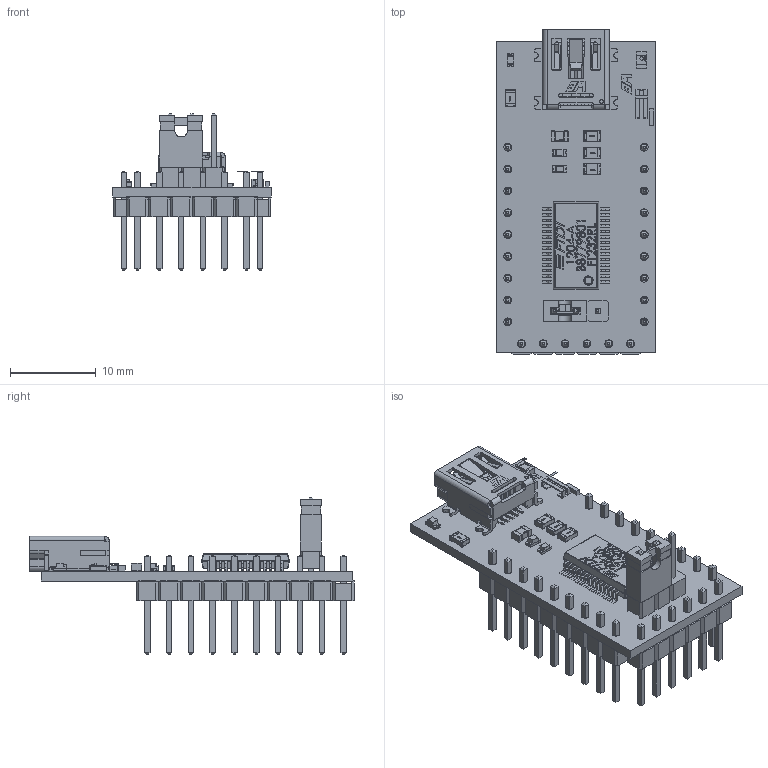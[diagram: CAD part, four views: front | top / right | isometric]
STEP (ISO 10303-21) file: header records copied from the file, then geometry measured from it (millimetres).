
FILE_DESCRIPTION (( 'STEP AP214' ), '1' );
FILE_NAME ('User Library-USB to TTL Serial Converter.STEP', '2021-11-09T10:01:26', ( '' ), ( '' ), 'SwSTEP 2.0', 'SolidWorks 2021', '' );
FILE_SCHEMA (( 'AUTOMOTIVE_DESIGN' ));
Length unit declared in the file: millimetre
Products named in the file (57): BodyArray; C1; Cap_KEMET_C0805C104K8RACTU_eec_3; All; 2; Res_YAGEO_RC0805JR-071KL_eec; D1; BodyArray_3; Pin_1; Wurth_Electronics_65100516121; Free-Models; 5; 3_2; Yageo; PinArray_2; 1_2; Logo; 1; User_Library-Header_Male_3Pin; R3; J1; Body; User_Library-SSOP-28-2; R2; Diode_Broadcom_HSME-C191_eec; pins_2; top; D2; Cap_KEMET_C0805C104K8RACTU_eec_2; 60900213421; Cap_Kemet_T491A106M016AT_eec; Insulator; Open CASCADE STEP translator 6.8 1.1.1; 60900213421_Housing; PinArray; R1; User_Library-Header_Male_6Pin; R4; Cap_KEMET_C0805C104K8RACTU_eec; Diode_Avago_HSMS-C190_eec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
Assembly tree (71 placements, depth 5):
  User Library-USB to TTL Serial Converter
    Board
      Open CASCADE STEP translator 6.8 1.1.1
    R4
      Res_YAGEO_RC0805JR-071KL_eec
        Body
        pad  x2
        top
        Yageo
    D3
      Diode_Avago_HSMS-C190_eec
        1
        2
        3
        All
    U1
      User_Library-SSOP-28-2
    R3
      Res_YAGEO_RC0805JR-071KL_eec
        Body
        pad  x2
        top
        Yageo
    R2
      Res_YAGEO_RC0805JR-071KL_eec
        Body
        pad  x2
        top
        Yageo
    R1
      Res_YAGEO_RC0805JR-071KL_eec
        Body
        pad  x2
        top
        Yageo
    J1
      Conn_Wurth_Electronics_65100516121_eec
        Wurth_Electronics_65100516121
          Shielding
          Insulator
          Pin_1  x5
          pins_2
        Logo
    D2
      Diode_Avago_HSMS-C190_eec
        1
        2
        3
        All
    D1
      Diode_Broadcom_HSME-C191_eec
        1_2
        2_2
        3_2
        5
    C3
      Cap_KEMET_C0805C104K8RACTU_eec
      Cap_KEMET_C0805C104K8RACTU_eec_2
      Cap_KEMET_C0805C104K8RACTU_eec_3
    C2
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Bounding box: 18.4 x 37.8 x 18.23 mm (x, y, z)
Volume: 1489.9 mm3; surface area: 4713.5 mm2
Topology: 186 solids, 186 shells, 3906 faces, 10248 edges, 6520 vertices
Faces by surface type: plane 2562, cylinder 840, bspline 498, cone 6
Entity records: 118709 total; most frequent: CARTESIAN_POINT 25331, ORIENTED_EDGE 13604, DIRECTION 12203, EDGE_CURVE 6802, VECTOR 4999, LINE 4999, VERTEX_POINT 4411, AXIS2_PLACEMENT_3D 3602
